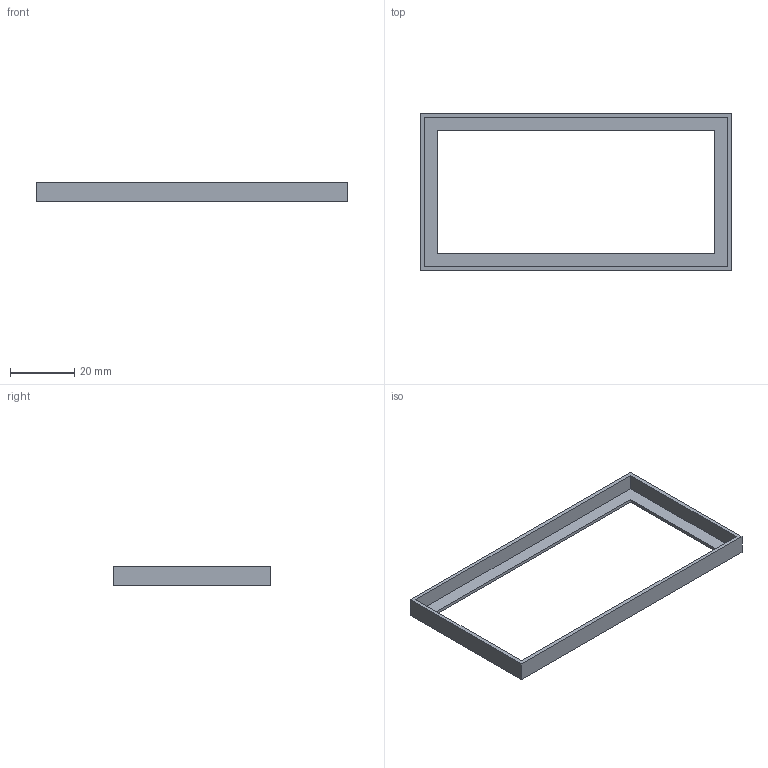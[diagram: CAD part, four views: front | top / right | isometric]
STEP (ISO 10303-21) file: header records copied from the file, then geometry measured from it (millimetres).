
FILE_DESCRIPTION (( 'STEP AP214' ), '1' );
FILE_NAME ('Marc negre PP11.STEP', '2017-08-10T08:35:58', ( 'aaa' ), ( '' ), 'SwSTEP 2.0', 'SolidWorks 2013', '' );
FILE_SCHEMA (( 'AUTOMOTIVE_DESIGN' ));
Length unit declared in the file: millimetre
Products named in the file (1): Marc negre PP11
Bounding box: 97 x 49 x 6 mm (x, y, z)
Volume: 3241.5 mm3; surface area: 6306.6 mm2
Topology: 1 solids, 1 shells, 15 faces, 36 edges, 24 vertices
Faces by surface type: plane 15
Entity records: 468 total; most frequent: CARTESIAN_POINT 76, ORIENTED_EDGE 72, DIRECTION 68, VECTOR 36, LINE 36, EDGE_CURVE 36, VERTEX_POINT 24, EDGE_LOOP 18
